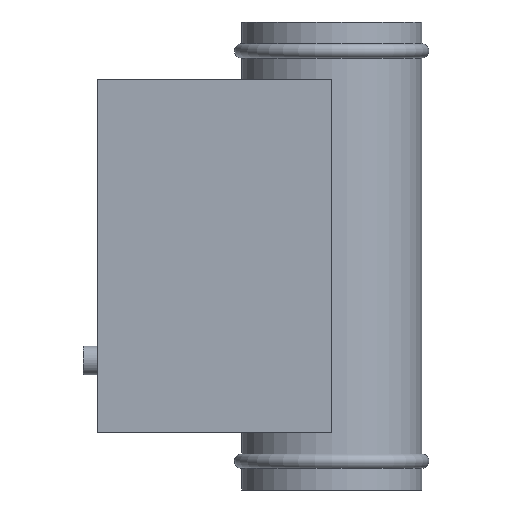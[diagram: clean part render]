
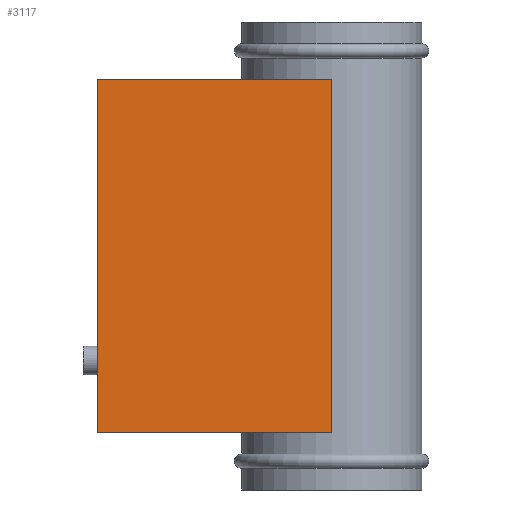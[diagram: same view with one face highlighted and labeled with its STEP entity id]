
A CAD part, left-side view. The second image highlights one B-rep face of the part: STEP entity #3117.
In plain terms, the highlighted planar face has unit normal (-1, 0, 0).
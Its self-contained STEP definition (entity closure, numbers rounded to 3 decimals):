
#424=LINE('',#4979,#794);
#426=LINE('',#4987,#796);
#427=LINE('',#4989,#797);
#428=LINE('',#4990,#798);
#794=VECTOR('',#4079,10.);
#796=VECTOR('',#4087,10.);
#797=VECTOR('',#4088,10.);
#798=VECTOR('',#4089,10.);
#955=PLANE('',#3331);
#1160=FACE_OUTER_BOUND('',#1347,.T.);
#1347=EDGE_LOOP('',(#2748,#2749,#2750,#2751));
#1695=VERTEX_POINT('',#4977);
#1696=VERTEX_POINT('',#4978);
#1699=VERTEX_POINT('',#4986);
#1700=VERTEX_POINT('',#4988);
#2088=EDGE_CURVE('',#1695,#1696,#424,.T.);
#2092=EDGE_CURVE('',#1699,#1695,#426,.T.);
#2093=EDGE_CURVE('',#1699,#1700,#427,.T.);
#2094=EDGE_CURVE('',#1700,#1696,#428,.T.);
#2748=ORIENTED_EDGE('',*,*,#2088,.F.);
#2749=ORIENTED_EDGE('',*,*,#2092,.F.);
#2750=ORIENTED_EDGE('',*,*,#2093,.T.);
#2751=ORIENTED_EDGE('',*,*,#2094,.T.);
#3117=ADVANCED_FACE('',(#1160),#955,.T.);
#3331=AXIS2_PLACEMENT_3D('',#4985,#4085,#4086);
#4079=DIRECTION('',(0.,0.,-1.));
#4085=DIRECTION('center_axis',(-1.,0.,0.));
#4086=DIRECTION('ref_axis',(0.,0.,-1.));
#4087=DIRECTION('',(0.,-1.,0.));
#4088=DIRECTION('',(0.,0.,-1.));
#4089=DIRECTION('',(0.,-1.,0.));
#4977=CARTESIAN_POINT('',(-62.5,0.,-40.));
#4978=CARTESIAN_POINT('',(-62.5,0.,-285.));
#4979=CARTESIAN_POINT('',(-62.5,0.,0.));
#4985=CARTESIAN_POINT('Origin',(-62.5,162.5,-40.));
#4986=CARTESIAN_POINT('',(-62.5,162.5,-40.));
#4987=CARTESIAN_POINT('',(-62.5,162.5,-40.));
#4988=CARTESIAN_POINT('',(-62.5,162.5,-285.));
#4989=CARTESIAN_POINT('',(-62.5,162.5,-40.));
#4990=CARTESIAN_POINT('',(-62.5,162.5,-285.));
